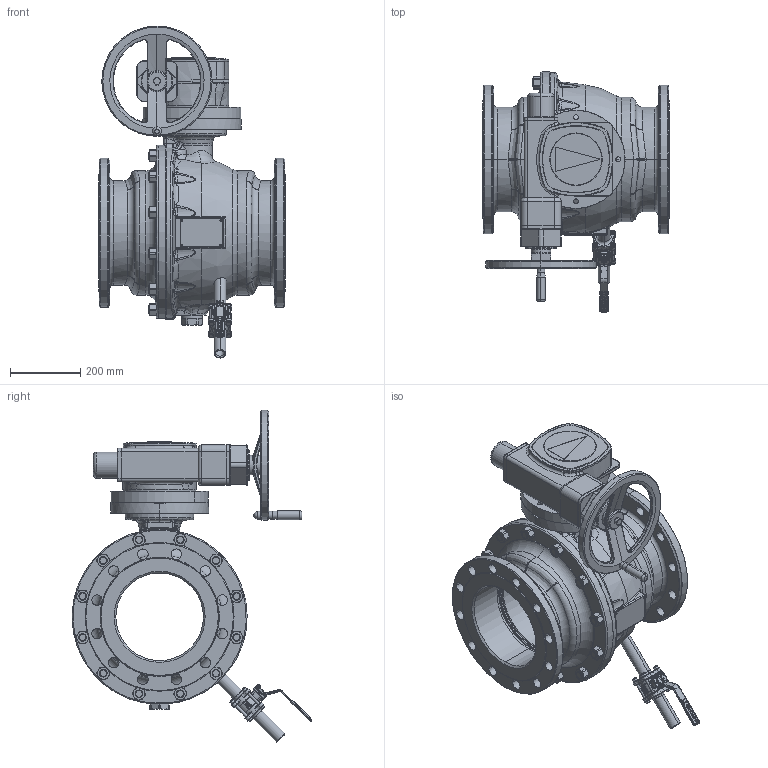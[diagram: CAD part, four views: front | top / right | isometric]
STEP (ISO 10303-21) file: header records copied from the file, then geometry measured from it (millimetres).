
FILE_DESCRIPTION((''),'2;1');
FILE_NAME('250_ASM','2017-01-17T',('schwaba'),('RAND'),'PRO/ENGINEER BY PARAMETRIC TECHNOLOGY CORPORATION, 2016100','PRO/ENGINEER BY PARAMETRIC TECHNOLOGY CORPORATION, 2016100','');
FILE_SCHEMA(('CONFIG_CONTROL_DESIGN'));
Products named in the file (3): KHI_250_PN25_FR_WE_ENTL_O_IT; GS100_F16_AHR315_ZWPL_DN300; 250_ASM
Assembly tree (2 placements, depth 2):
  250_ASM
    KHI_250_PN25_FR_WE_ENTL_O_IT
    GS100_F16_AHR315_ZWPL_DN300
Bounding box: 533 x 684.81 x 947.85 mm (x, y, z)
Volume: 37490007.7 mm3; surface area: 4025980.3 mm2
Topology: 3 solids, 10 shells, 4360 faces, 10889 edges, 6656 vertices
Faces by surface type: plane 1715, cylinder 949, bspline 619, cone 536, torus 472, sphere 69
Entity records: 260663 total; most frequent: CARTESIAN_POINT 160630, ORIENTED_EDGE 21674, DIRECTION 19930, EDGE_CURVE 10837, AXIS2_PLACEMENT_3D 7434, VERTEX_POINT 6656, VECTOR 5062, LINE 5062
